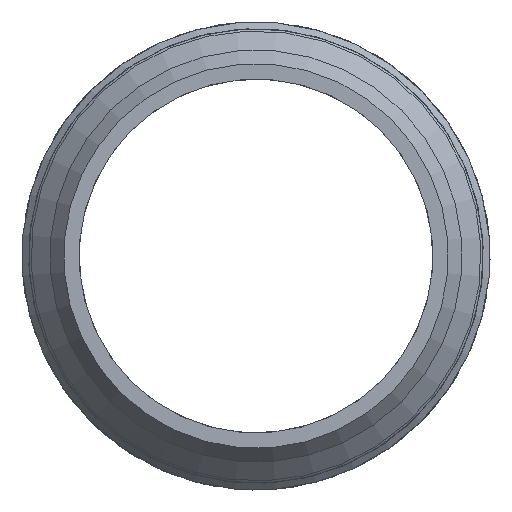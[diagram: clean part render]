
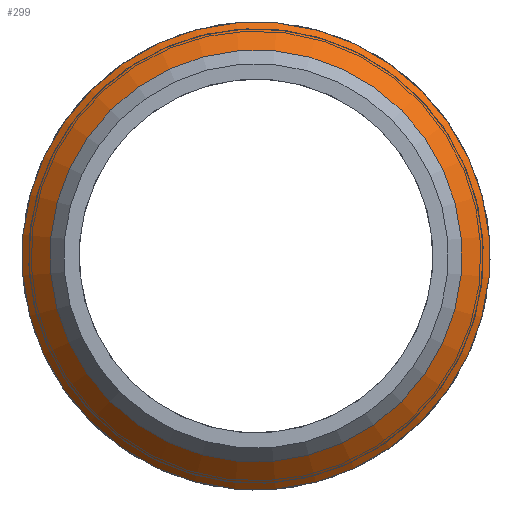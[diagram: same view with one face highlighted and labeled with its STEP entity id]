
A CAD part, front view. The second image highlights one B-rep face of the part: STEP entity #299.
In plain terms, the highlighted conical face has half-angle 45 degrees and reference radius 38.995 mm.
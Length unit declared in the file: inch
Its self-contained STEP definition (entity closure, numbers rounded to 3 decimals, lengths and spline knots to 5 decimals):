
#11=CONICAL_SURFACE('',#341,1.53525,45.);
#44=FACE_BOUND('',#105,.T.);
#68=FACE_OUTER_BOUND('',#104,.T.);
#104=EDGE_LOOP('',(#224));
#105=EDGE_LOOP('',(#225));
#140=CIRCLE('',#342,1.4375);
#141=CIRCLE('',#343,1.633);
#164=VERTEX_POINT('',#501);
#165=VERTEX_POINT('',#503);
#188=EDGE_CURVE('',#164,#164,#140,.T.);
#189=EDGE_CURVE('',#165,#165,#141,.T.);
#224=ORIENTED_EDGE('',*,*,#188,.F.);
#225=ORIENTED_EDGE('',*,*,#189,.F.);
#299=ADVANCED_FACE('',(#68,#44),#11,.T.);
#341=AXIS2_PLACEMENT_3D('',#500,#415,#416);
#342=AXIS2_PLACEMENT_3D('',#502,#417,#418);
#343=AXIS2_PLACEMENT_3D('',#504,#419,#420);
#415=DIRECTION('center_axis',(0.,1.,0.));
#416=DIRECTION('ref_axis',(-0.965,0.,0.262));
#417=DIRECTION('center_axis',(0.,-1.,0.));
#418=DIRECTION('ref_axis',(0.965,0.,-0.262));
#419=DIRECTION('center_axis',(0.,1.,0.));
#420=DIRECTION('ref_axis',(0.262,0.,0.965));
#500=CARTESIAN_POINT('Origin',(0.,0.96475,0.));
#501=CARTESIAN_POINT('',(-1.38744,0.867,0.37607));
#502=CARTESIAN_POINT('Origin',(0.,0.867,0.));
#503=CARTESIAN_POINT('',(-1.57613,1.0625,0.42721));
#504=CARTESIAN_POINT('Origin',(0.,1.0625,0.));
